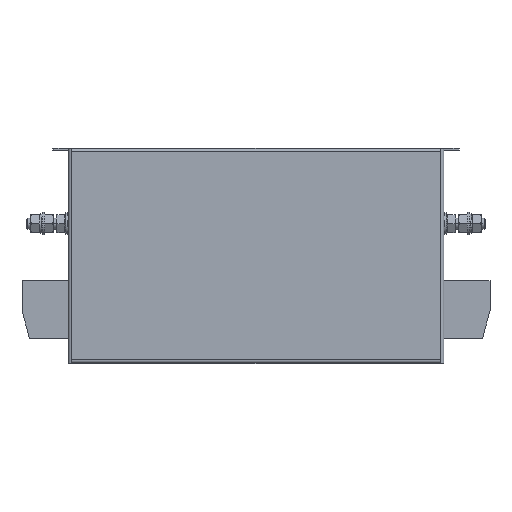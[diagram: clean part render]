
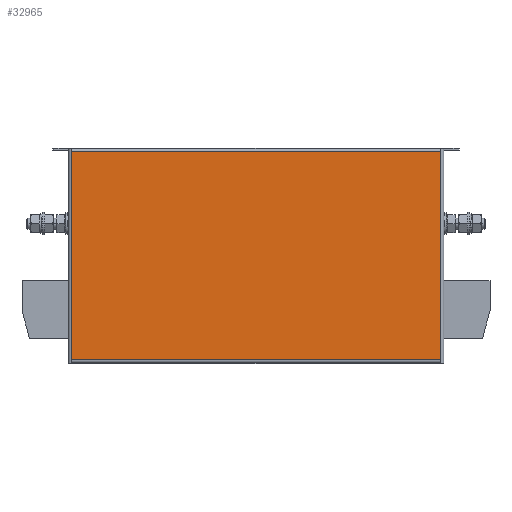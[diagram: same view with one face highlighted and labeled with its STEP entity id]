
A CAD part, front view. The second image highlights one B-rep face of the part: STEP entity #32965.
In plain terms, the highlighted planar face has unit normal (0, -1, 0).
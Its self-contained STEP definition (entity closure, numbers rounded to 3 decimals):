
#3716=DIRECTION('',(-1.,0.,0.));
#3717=VECTOR('',#3716,344.);
#3718=CARTESIAN_POINT('',(172.,-1.5,97.));
#3719=LINE('',#3718,#3717);
#3760=DIRECTION('',(0.,0.,1.));
#3761=VECTOR('',#3760,194.);
#3762=CARTESIAN_POINT('',(172.,-1.5,-97.));
#3763=LINE('',#3762,#3761);
#10097=DIRECTION('',(1.,0.,0.));
#10098=VECTOR('',#10097,344.);
#10099=CARTESIAN_POINT('',(-172.,-1.5,-97.));
#10100=LINE('',#10099,#10098);
#10137=DIRECTION('',(0.,0.,-1.));
#10138=VECTOR('',#10137,194.);
#10139=CARTESIAN_POINT('',(-172.,-1.5,97.));
#10140=LINE('',#10139,#10138);
#14520=CARTESIAN_POINT('',(-172.,-1.5,-97.));
#14521=CARTESIAN_POINT('',(172.,-1.5,-97.));
#14522=VERTEX_POINT('',#14520);
#14523=VERTEX_POINT('',#14521);
#14530=CARTESIAN_POINT('',(172.,-1.5,97.));
#14531=CARTESIAN_POINT('',(-172.,-1.5,97.));
#14532=VERTEX_POINT('',#14530);
#14533=VERTEX_POINT('',#14531);
#32954=CARTESIAN_POINT('',(0.,-1.5,0.));
#32955=DIRECTION('',(0.,1.,0.));
#32956=DIRECTION('',(1.,0.,0.));
#32957=AXIS2_PLACEMENT_3D('',#32954,#32955,#32956);
#32958=PLANE('',#32957);
#32959=ORIENTED_EDGE('',*,*,#23686,.F.);
#32960=ORIENTED_EDGE('',*,*,#23741,.F.);
#32961=ORIENTED_EDGE('',*,*,#32392,.F.);
#32962=ORIENTED_EDGE('',*,*,#32443,.F.);
#32963=EDGE_LOOP('',(#32959,#32960,#32961,#32962));
#32964=FACE_OUTER_BOUND('',#32963,.F.);
#23686=EDGE_CURVE('',#14532,#14533,#3719,.T.);
#23741=EDGE_CURVE('',#14523,#14532,#3763,.T.);
#32392=EDGE_CURVE('',#14522,#14523,#10100,.T.);
#32443=EDGE_CURVE('',#14533,#14522,#10140,.T.);
#32965=ADVANCED_FACE('',(#32964),#32958,.F.);
